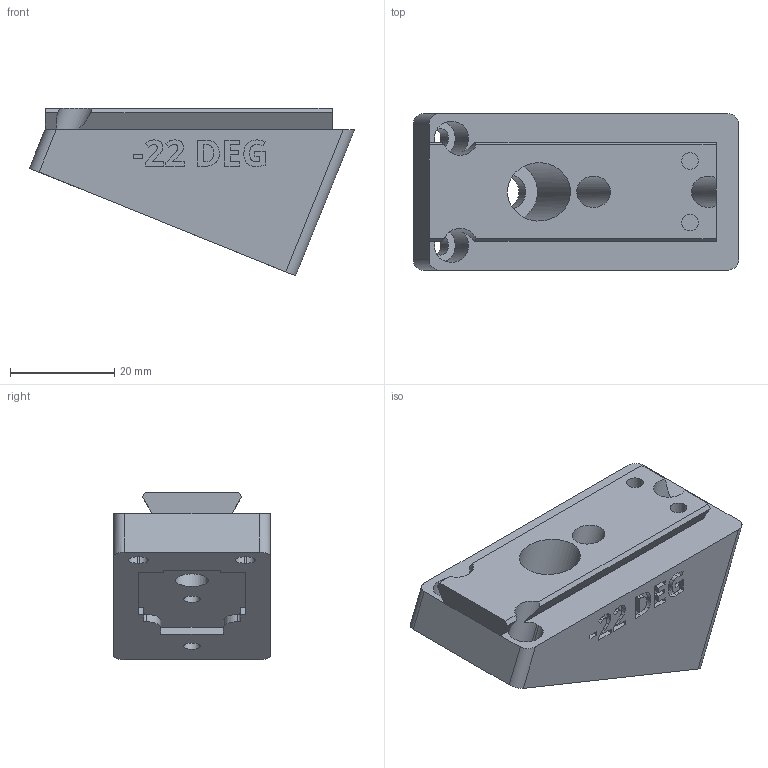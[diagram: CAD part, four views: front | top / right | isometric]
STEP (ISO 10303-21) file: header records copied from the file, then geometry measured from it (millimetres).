
FILE_DESCRIPTION(/* description */ ('STEP AP242 Edition 2','CAx-IF Rec.Pracs.---Representation and Presentation of Product Manufacturing Information (PMI)---4.0---2014-10-13','CAx-IF Rec.Pracs.---3D Tessellated Geometry---0.4---2014-09-14','2;1','CAx-IF Rec.Pracs.---User Defined Attributes---1.5---2016-08-15'),/* implementation_level */ '2;1');
FILE_NAME(/* name */ 'Camera Wedges - CAMERA MOUNTING WEDGE, NEG, -22 DEG',/* time_stamp */ '2026-08-11T00:06:55Z',/* author */ (''),/* organization */ (''),/* preprocessor_version */ 'ST-DEVELOPER v20',/* originating_system */ 'ONSHAPE BY PTC INC, 1.219',/* authorisation */ ' ');
FILE_SCHEMA (('AP242_MANAGED_MODEL_BASED_3D_ENGINEERING_MIM_LF { 1 0 10303 442 3 1 4 }'));
Length unit declared in the file: metre
Products named in the file (1): CAMERA MOUNTING WEDGE, NEG, -22 DEG
Bounding box: 62.31 x 30 x 32.1 mm (x, y, z)
Volume: 30857.9 mm3; surface area: 9558.9 mm2
Topology: 1 solids, 1 shells, 282 faces, 781 edges, 520 vertices
Faces by surface type: plane 154, cylinder 68, bspline 60
Full cylindrical faces by diameter (mm): 3.2 x4, 6 x2, 6.4 x1, 11.2 x1
Entity records: 9193 total; most frequent: CARTESIAN_POINT 2234, ORIENTED_EDGE 1544, DIRECTION 1249, EDGE_CURVE 772, VERTEX_POINT 519, LINE 501, VECTOR 501, AXIS2_PLACEMENT_3D 374
